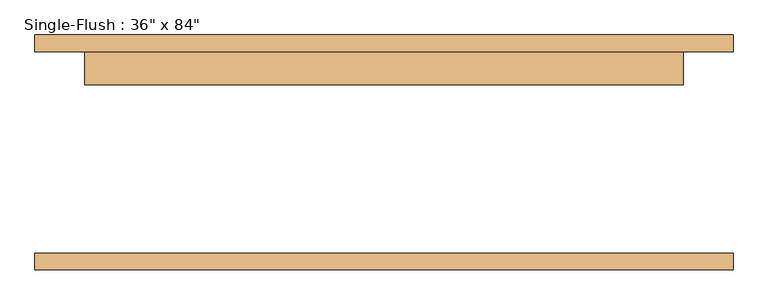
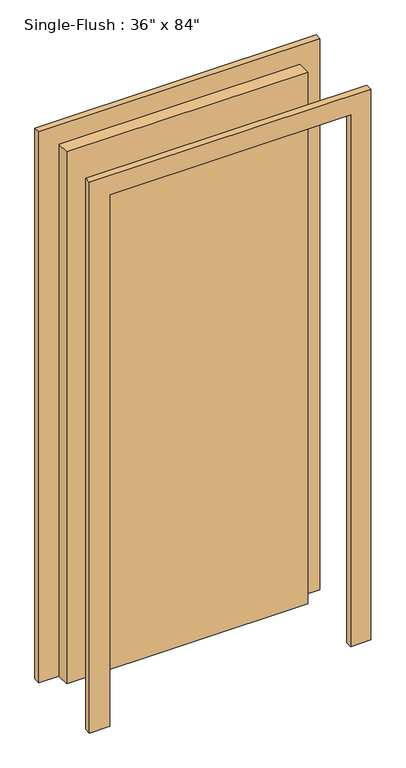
"""IFC4 building model written with IfcOpenShell, lengths in millimetres: door geometry."""

from ifc_helpers import new_model, si_unit, frame, origin, origin_with_axes, place, context, project, spatial, polyline, outline, extrude, source, transform, mapped, element, save


def door_4e13689c(model_context):
    return source(origin(), model_context, "Body", "SweptSolid", [
        extrude(outline(polyline([(2209.8, -533.4), (0.0, -533.4), (0.0, -457.2), (2133.6, -457.2), (2133.6, 457.2), (0.0, 457.2), (0.0, 533.4), (2209.8, 533.4), (2209.8, -533.4)])), frame((0.0, 153.9875, 0.0), z_axis=(0.0, 1.0, 0.0), x_axis=(0.0, 0.0, 1.0)), (0.0, 0.0, 1.0), 25.4),
        extrude(outline(polyline([(2209.8, 533.4), (2209.8, -533.4), (0.0, -533.4), (0.0, -457.2), (2133.6, -457.2), (2133.6, 457.2), (0.0, 457.2), (0.0, 533.4), (2209.8, 533.4)])), frame((0.0, -179.3875, 0.0), z_axis=(0.0, 1.0, 0.0), x_axis=(0.0, 0.0, 1.0)), (0.0, 0.0, 1.0), 25.4),
        extrude(outline(polyline([(457.2, 103.1875), (-457.2, 103.1875), (-457.2, 153.9875), (457.2, 153.9875), (457.2, 103.1875)])), origin_with_axes(), (0.0, 0.0, 1.0), 2133.6),
    ])


if __name__ == "__main__":
    model = new_model("IFC4")
    model_context = context("Model", 3, world=origin())
    ifc_project = project(units=[si_unit("LENGTHUNIT", "METRE", prefix="MILLI")], contexts=[model_context])
    site = spatial("IfcSite", under=ifc_project)
    building = spatial("IfcBuilding", under=site)
    placement = place(None, origin())
    door_shape = door_4e13689c(model_context)
    element("IfcDoor", 1, ObjectType="Single-Flush : 36\" x 84\"", at=placement, inside=building, context=model_context, shape_type="MappedRepresentation", body=[
        mapped(door_shape, transform((0.0, 0.0, 0.0), x_axis=(1.0, 0.0, 0.0), y_axis=(0.0, 1.0, 0.0), z_axis=(0.0, 0.0, 1.0))),
    ])
    save(model, "model.ifc")
